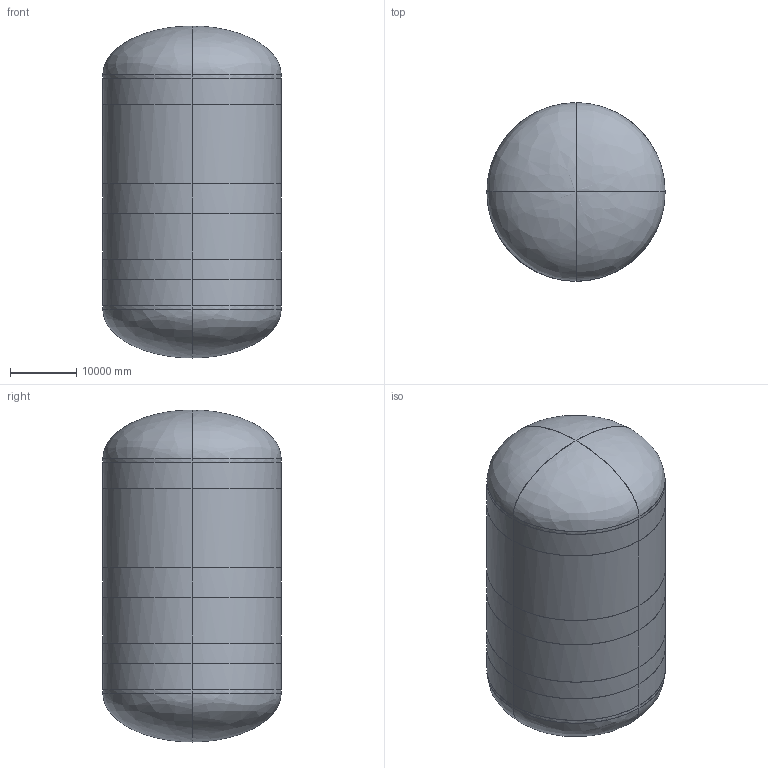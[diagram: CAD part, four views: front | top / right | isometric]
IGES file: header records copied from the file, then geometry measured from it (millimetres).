
Global section: file name: tank.igs; native system: ANSYS; preprocessor:   12.0.1    UP20090415; date: 000627.124555
Bounding box: 26974.8 x 26974.8 x 50266.6 mm (x, y, z)
Surface area: 4649047132.4 mm2 (no closed solid volume)
Topology: 0 solids, 0 shells, 40 faces, 160 edges, 154 vertices
Faces by surface type: bspline 40
